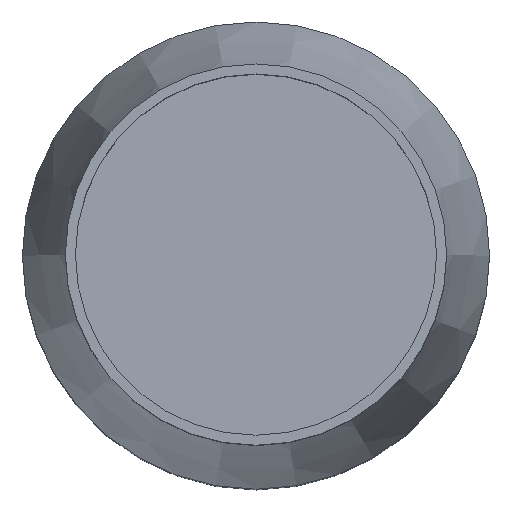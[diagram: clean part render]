
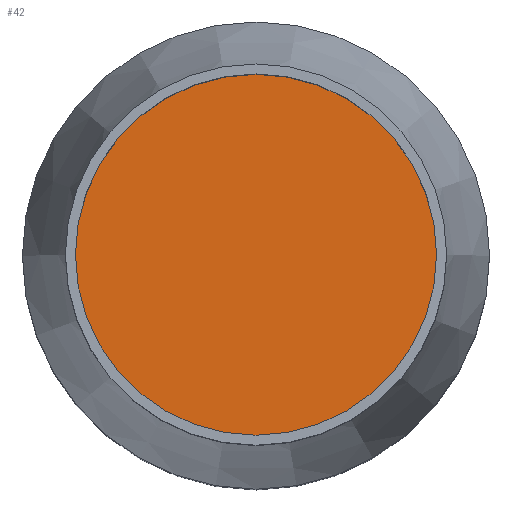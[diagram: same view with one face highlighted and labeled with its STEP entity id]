
A CAD part, top view. The second image highlights one B-rep face of the part: STEP entity #42.
In plain terms, the highlighted planar face has unit normal (0, 0, 1).
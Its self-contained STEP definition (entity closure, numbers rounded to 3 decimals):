
#42 = ADVANCED_FACE( '', ( #87 ), #88, .F. );
#87 = FACE_OUTER_BOUND( '', #132, .T. );
#88 = PLANE( '', #133 );
#132 = EDGE_LOOP( '', ( #179 ) );
#133 = AXIS2_PLACEMENT_3D( '', #180, #181, #182 );
#179 = ORIENTED_EDGE( '', *, *, #213, .F. );
#180 = CARTESIAN_POINT( '', ( 0., 0., 45.067 ) );
#181 = DIRECTION( '', ( 0., 0., -1. ) );
#182 = DIRECTION( '', ( -1., 0., 0. ) );
#213 = EDGE_CURVE( '', #232, #232, #233, .T. );
#232 = VERTEX_POINT( '', #260 );
#233 = CIRCLE( '', #261, 54. );
#260 = CARTESIAN_POINT( '', ( -54., 0., 45.067 ) );
#261 = AXIS2_PLACEMENT_3D( '', #287, #288, #289 );
#287 = CARTESIAN_POINT( '', ( 0., 0., 45.067 ) );
#288 = DIRECTION( '', ( 0., 0., -1. ) );
#289 = DIRECTION( '', ( -1., 0., 0. ) );
